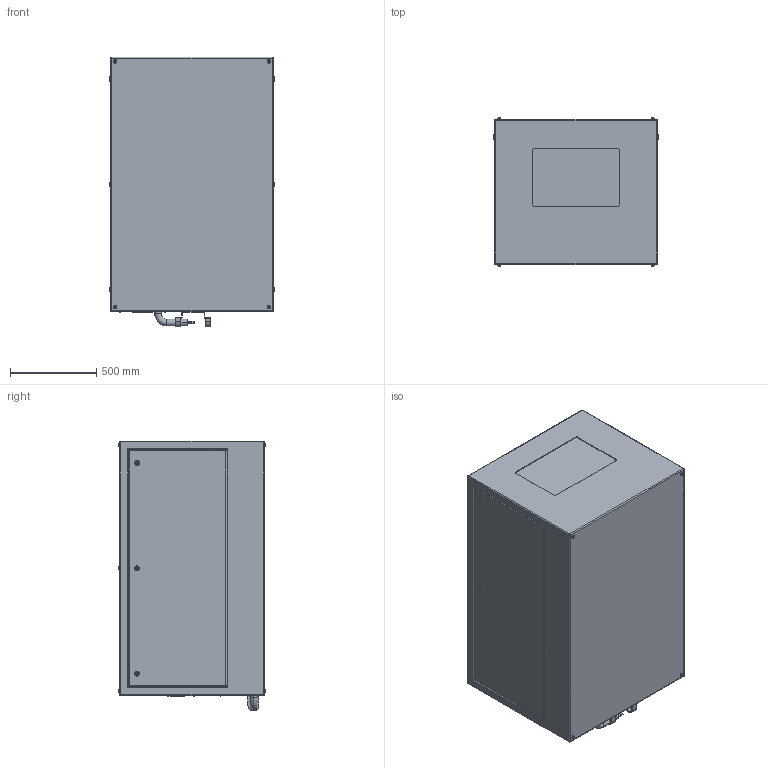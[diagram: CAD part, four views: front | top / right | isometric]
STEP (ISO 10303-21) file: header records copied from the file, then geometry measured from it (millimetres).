
FILE_DESCRIPTION (( 'STEP AP214' ), '1' );
FILE_NAME ('Oasis 59.514.L R02.STEP', '2022-08-27T16:13:02', ( '' ), ( '' ), 'SwSTEP 2.0', 'SolidWorks 2020', '' );
FILE_SCHEMA (( 'AUTOMOTIVE_DESIGN' ));
Length unit declared in the file: inch
Products named in the file (1): Oasis 59.514.L R02
Bounding box: 952.5 x 855.47 x 1562.1 mm (x, y, z)
Volume: 1159270201.3 mm3; surface area: 7292117 mm2
Topology: 2 solids, 8 shells, 495 faces, 1129 edges, 714 vertices
Faces by surface type: plane 271, cylinder 170, torus 46, bspline 8
Entity records: 18928 total; most frequent: CARTESIAN_POINT 2851, DIRECTION 2459, ORIENTED_EDGE 2242, EDGE_CURVE 1121, AXIS2_PLACEMENT_3D 882, VERTEX_POINT 714, VECTOR 695, LINE 695
